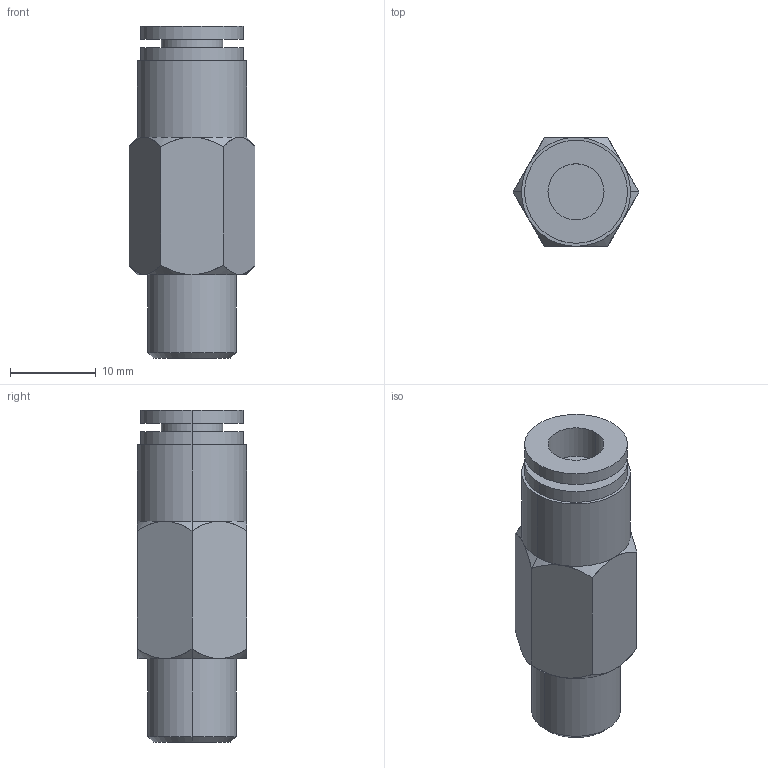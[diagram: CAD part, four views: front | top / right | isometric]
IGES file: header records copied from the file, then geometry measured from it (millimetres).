
Global section: file name: C:\Documents and Settings\Administrator\My Documents\PersonalProject\smccheckvalve.igs; native system: AutoDesk Inventor R2.0 ; preprocessor: AutoDesk Inventor Iges Exporter R2.0; author: No Author specified; organization: No Organization specified; date: 20020115.191636; units: inch
Bounding box: 14.66 x 12.7 x 38.67 mm (x, y, z)
Surface area: 2285.2 mm2 (no closed solid volume)
Topology: 0 solids, 0 shells, 46 faces, 188 edges, 188 vertices
Faces by surface type: revolution 32, bspline 14
